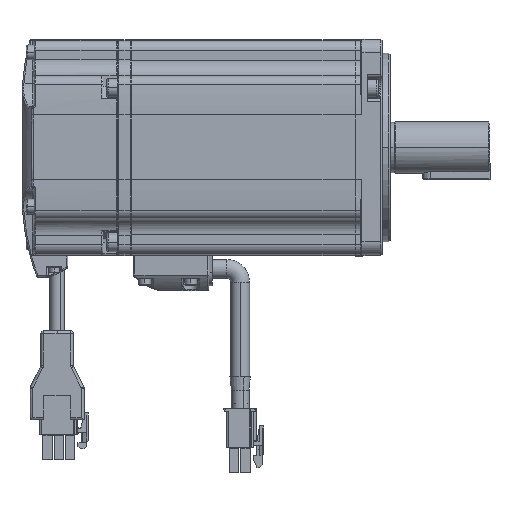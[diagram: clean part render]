
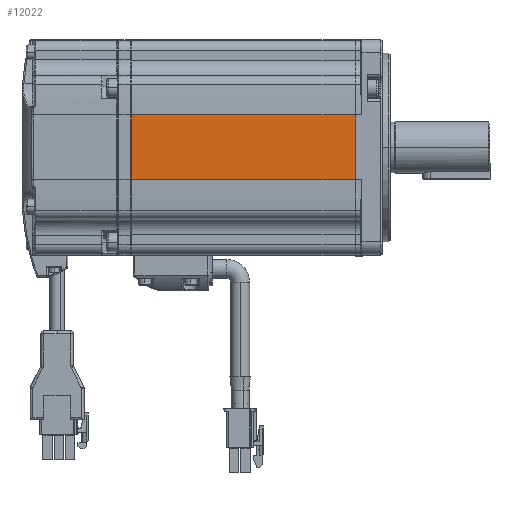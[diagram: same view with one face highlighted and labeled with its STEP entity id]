
A CAD part, top view. The second image highlights one B-rep face of the part: STEP entity #12022.
In plain terms, the highlighted planar face has unit normal (0, 0, 1).
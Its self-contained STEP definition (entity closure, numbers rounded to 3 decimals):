
#942 = AXIS2_PLACEMENT_3D ( 'NONE', #29757, #39963, #19280 ) ;
#1839 = LINE ( 'NONE', #48281, #10473 ) ;
#2891 = VERTEX_POINT ( 'NONE', #28005 ) ;
#3335 = EDGE_LOOP ( 'NONE', ( #48081, #28832, #8605, #39900 ) ) ;
#8605 = ORIENTED_EDGE ( 'NONE', *, *, #37499, .F. ) ;
#10473 = VECTOR ( 'NONE', #69343, 1000. ) ;
#10752 = LINE ( 'NONE', #57645, #33726 ) ;
#12022 = ADVANCED_FACE ( 'NONE', ( #26716 ), #40896, .F. ) ;
#12698 = LINE ( 'NONE', #51959, #19582 ) ;
#13881 = DIRECTION ( 'NONE',  ( 0., -1., 0. ) ) ;
#14923 = DIRECTION ( 'NONE',  ( 1., 0., 0. ) ) ;
#19280 = DIRECTION ( 'NONE',  ( 0., -1., 0. ) ) ;
#19582 = VECTOR ( 'NONE', #35000, 1000. ) ;
#23030 = EDGE_CURVE ( 'NONE', #70457, #67471, #42135, .T. ) ;
#26716 = FACE_OUTER_BOUND ( 'NONE', #3335, .T. ) ;
#26995 = EDGE_CURVE ( 'NONE', #43115, #2891, #12698, .T. ) ;
#27901 = CARTESIAN_POINT ( 'NONE',  ( -129.53, 16.746, 40. ) ) ;
#28005 = CARTESIAN_POINT ( 'NONE',  ( -46.53, 16.746, 40. ) ) ;
#28832 = ORIENTED_EDGE ( 'NONE', *, *, #26995, .T. ) ;
#29583 = EDGE_CURVE ( 'NONE', #67471, #43115, #1839, .T. ) ;
#29757 = CARTESIAN_POINT ( 'NONE',  ( -156.03, 4.746, 40. ) ) ;
#31891 = VECTOR ( 'NONE', #13881, 1000. ) ;
#33726 = VECTOR ( 'NONE', #14923, 1000. ) ;
#35000 = DIRECTION ( 'NONE',  ( 0., 1., 0. ) ) ;
#37499 = EDGE_CURVE ( 'NONE', #70457, #2891, #10752, .T. ) ;
#39900 = ORIENTED_EDGE ( 'NONE', *, *, #23030, .T. ) ;
#39963 = DIRECTION ( 'NONE',  ( 0., 0., -1. ) ) ;
#40896 = PLANE ( 'NONE',  #942 ) ;
#42135 = LINE ( 'NONE', #63052, #31891 ) ;
#43115 = VERTEX_POINT ( 'NONE', #60846 ) ;
#45170 = CARTESIAN_POINT ( 'NONE',  ( -129.53, -7.254, 40. ) ) ;
#48081 = ORIENTED_EDGE ( 'NONE', *, *, #29583, .T. ) ;
#48281 = CARTESIAN_POINT ( 'NONE',  ( -156.03, -7.254, 40. ) ) ;
#51959 = CARTESIAN_POINT ( 'NONE',  ( -46.53, 4.746, 40. ) ) ;
#57645 = CARTESIAN_POINT ( 'NONE',  ( -156.03, 16.746, 40. ) ) ;
#60846 = CARTESIAN_POINT ( 'NONE',  ( -46.53, -7.254, 40. ) ) ;
#63052 = CARTESIAN_POINT ( 'NONE',  ( -129.53, 4.746, 40. ) ) ;
#67471 = VERTEX_POINT ( 'NONE', #45170 ) ;
#69343 = DIRECTION ( 'NONE',  ( 1., 0., 0. ) ) ;
#70457 = VERTEX_POINT ( 'NONE', #27901 ) ;
